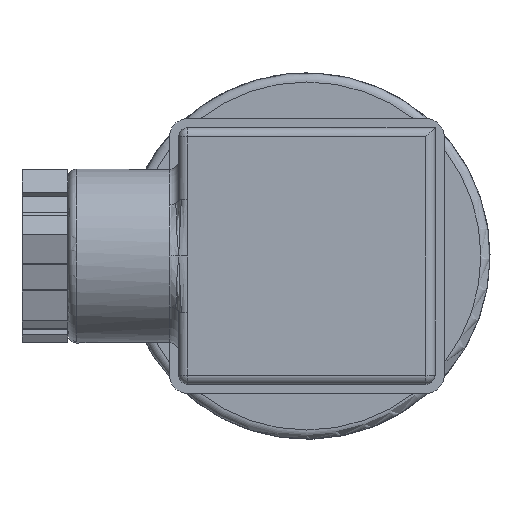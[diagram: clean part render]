
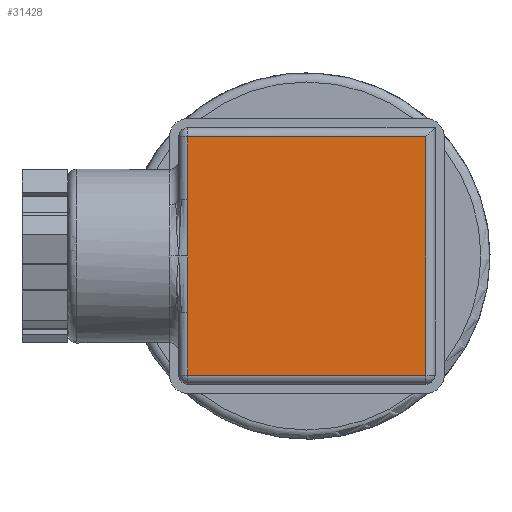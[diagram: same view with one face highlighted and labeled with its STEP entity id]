
A CAD part, left-side view. The second image highlights one B-rep face of the part: STEP entity #31428.
In plain terms, the highlighted planar face has unit normal (-1, 0, 0).
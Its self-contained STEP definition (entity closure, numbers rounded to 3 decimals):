
#226=CARTESIAN_POINT('',(-157.,3.5,-2.967));
#227=VERTEX_POINT('',#226);
#238=CARTESIAN_POINT('',(-157.,3.5,3.198));
#239=VERTEX_POINT('',#238);
#240=CARTESIAN_POINT('',(-157.,3.5,-2.967));
#241=DIRECTION('',(0.,0.,1.0));
#242=VECTOR('',#241,6.164);
#243=LINE('',#240,#242);
#244=EDGE_CURVE('',#227,#239,#243,.T.);
#325=CARTESIAN_POINT('',(-157.,3.5,-9.131));
#326=VERTEX_POINT('',#325);
#334=CARTESIAN_POINT('',(-157.,3.5,-9.131));
#335=DIRECTION('',(0.,0.,1.0));
#336=VECTOR('',#335,6.164);
#337=LINE('',#334,#336);
#338=EDGE_CURVE('',#326,#227,#337,.T.);
#31082=CARTESIAN_POINT('',(-157.,3.5,-15.967));
#31083=VERTEX_POINT('',#31082);
#31139=CARTESIAN_POINT('',(-157.,-22.5,-15.967));
#31140=VERTEX_POINT('',#31139);
#31250=CARTESIAN_POINT('',(-157.,3.5,10.033));
#31251=VERTEX_POINT('',#31250);
#31284=CARTESIAN_POINT('',(-157.,3.5,3.198));
#31285=DIRECTION('',(0.,0.,1.0));
#31286=VECTOR('',#31285,6.836);
#31287=LINE('',#31284,#31286);
#31288=EDGE_CURVE('',#239,#31251,#31287,.T.);
#31300=CARTESIAN_POINT('',(-157.,-22.5,10.033));
#31301=VERTEX_POINT('',#31300);
#31302=CARTESIAN_POINT('',(-157.,3.5,10.033));
#31303=DIRECTION('',(0.0,-1.0,0.0));
#31304=VECTOR('',#31303,26.0);
#31305=LINE('',#31302,#31304);
#31306=EDGE_CURVE('',#31251,#31301,#31305,.T.);
#31323=CARTESIAN_POINT('',(-157.,-22.5,10.033));
#31324=DIRECTION('',(0.,0.,-1.0));
#31325=VECTOR('',#31324,26.);
#31326=LINE('',#31323,#31325);
#31327=EDGE_CURVE('',#31301,#31140,#31326,.T.);
#31369=CARTESIAN_POINT('',(-157.,3.5,-15.967));
#31370=DIRECTION('',(0.,0.,1.0));
#31371=VECTOR('',#31370,6.836);
#31372=LINE('',#31369,#31371);
#31373=EDGE_CURVE('',#31083,#326,#31372,.T.);
#31391=CARTESIAN_POINT('',(-157.,-22.5,-15.967));
#31392=DIRECTION('',(0.0,1.0,0.0));
#31393=VECTOR('',#31392,26.0);
#31394=LINE('',#31391,#31393);
#31395=EDGE_CURVE('',#31140,#31083,#31394,.T.);
#31414=CARTESIAN_POINT('',(-157.,-9.5,-2.967));
#31415=DIRECTION('',(-1.0,0.,0.));
#31416=DIRECTION('',(0.,0.,-1.0));
#31417=AXIS2_PLACEMENT_3D('',#31414,#31415,#31416);
#31418=PLANE('',#31417);
#31419=ORIENTED_EDGE('',*,*,#338,.F.);
#31420=ORIENTED_EDGE('',*,*,#31373,.F.);
#31421=ORIENTED_EDGE('',*,*,#31395,.F.);
#31422=ORIENTED_EDGE('',*,*,#31327,.F.);
#31423=ORIENTED_EDGE('',*,*,#31306,.F.);
#31424=ORIENTED_EDGE('',*,*,#31288,.F.);
#31425=ORIENTED_EDGE('',*,*,#244,.F.);
#31426=EDGE_LOOP('',(#31419,#31420,#31421,#31422,#31423,#31424,#31425));
#31427=FACE_OUTER_BOUND('',#31426,.T.);
#31428=ADVANCED_FACE('',(#31427),#31418,.T.);
